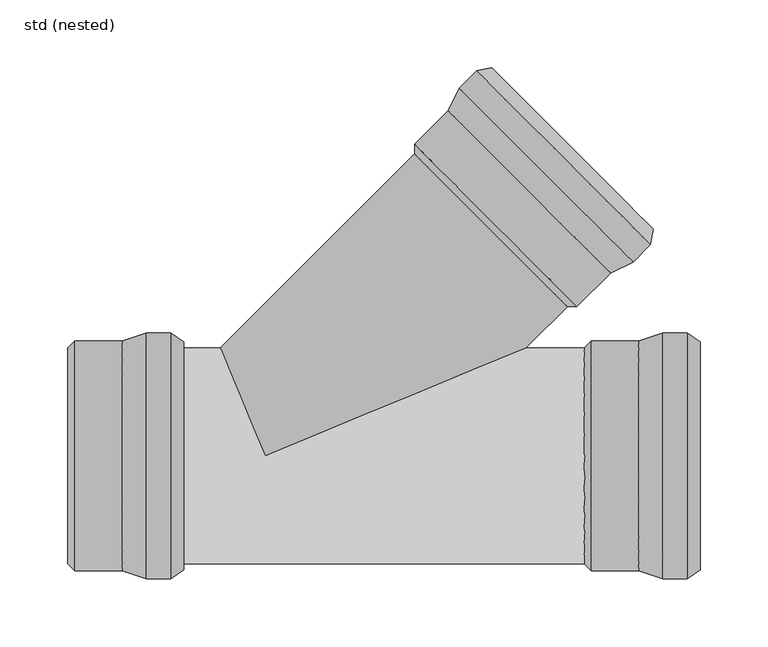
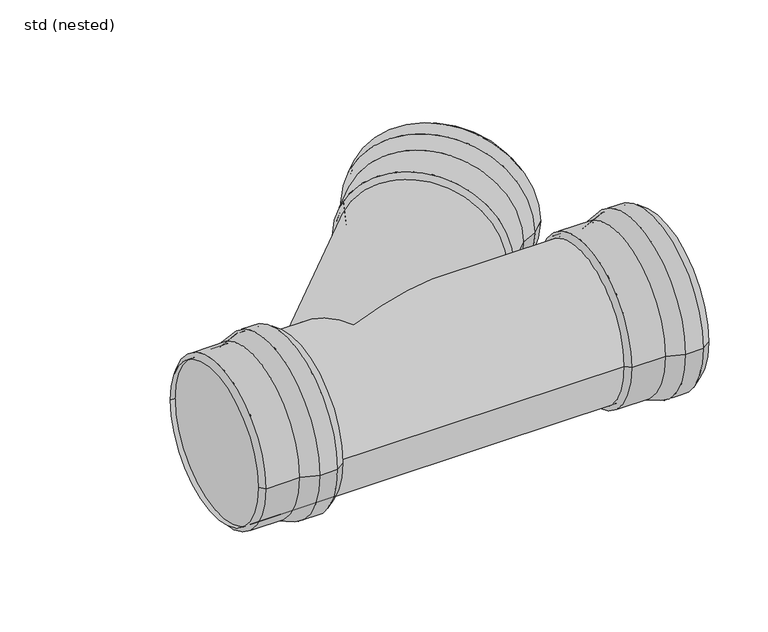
"""IFC4 building model written with IfcOpenShell, lengths in millimetres: pipe fitting geometry, ZZZ_do not use_PIF_ST_UN_GM-X single branch_ACO : std (nested)."""

from ifc_helpers import new_model, si_unit, frame, origin, place, context, project, spatial, polyline, circle_curve, ellipse_curve, source, transform, mapped, element, save
from ifc_brep_helpers import plane_surface, cylinder_surface, revolved_surface, advanced_brep


def std_nested_5b5722a1(model_context):
    return source(origin(), model_context, "Body", "AdvancedBrep", [
        advanced_brep(
        [(-87.5, 90.5, 0.0), (-87.5, -90.5, 0.0), (-69.5, -90.5, 0.0), (-69.5, 90.5, 0.0), (-105.0, 84.5, 0.0), (-105.0, -84.5, 0.0), (-60.0, -84.0, 0.0), (-60.0, 84.0, 0.0), (-140.0, 84.5, 0.0), (-140.0, -84.5, 0.0), (-145.0, 79.5, 0.0), (-145.0, -79.5, 0.0), (-140.0, 79.5, 0.0), (-140.0, -79.5, 0.0), (-104.5833333, 82.0, 0.0), (-104.5833333, -82.0, 0.0), (-140.0, -82.0, 0.0), (-140.0, 82.0, 0.0), (-87.0833333, 88.0, 0.0), (-87.0833333, -88.0, 0.0), (-70.2734094, 88.0, 0.0), (-70.2734094, -88.0, 0.0), (-61.4117098, 81.9367318, 0.0), (-61.4117098, -81.9367318, 0.0)],
        [
            (0, 1, circle_curve(frame((-87.5, 0.0, 0.0), z_axis=(1.0, 0.0, 0.0), x_axis=(0.0, -1.0, 0.0)), 90.5)),
            (1, 2),
            (2, 3, circle_curve(frame((-69.5, 0.0, 0.0), z_axis=(-1.0, 0.0, 0.0), x_axis=(0.0, -1.0, 0.0)), 90.5)),
            (3, 0),
            (1, 0, circle_curve(frame((-87.5, 0.0, 0.0), z_axis=(1.0, 0.0, 0.0), x_axis=(0.0, -1.0, 0.0)), 90.5)),
            (3, 2, circle_curve(frame((-69.5, 0.0, 0.0), z_axis=(-1.0, 0.0, 0.0), x_axis=(0.0, -1.0, 0.0)), 90.5)),
            (4, 5, circle_curve(frame((-105.0, 0.0, 0.0), z_axis=(1.0, 0.0, 0.0), x_axis=(0.0, -1.0, 0.0)), 84.5)),
            (5, 1),
            (0, 4),
            (5, 4, circle_curve(frame((-105.0, 0.0, 0.0), z_axis=(1.0, 0.0, 0.0), x_axis=(0.0, -1.0, 0.0)), 84.5)),
            (2, 6),
            (6, 7, circle_curve(frame((-60.0, 0.0, 0.0), z_axis=(-1.0, 0.0, 0.0), x_axis=(0.0, -1.0, 0.0)), 84.0)),
            (7, 3),
            (7, 6, circle_curve(frame((-60.0, 0.0, 0.0), z_axis=(-1.0, 0.0, 0.0), x_axis=(0.0, -1.0, 0.0)), 84.0)),
            (8, 9, circle_curve(frame((-140.0, 0.0, 0.0), z_axis=(1.0, 0.0, 0.0), x_axis=(0.0, -1.0, 0.0)), 84.5)),
            (9, 5),
            (4, 8),
            (9, 8, circle_curve(frame((-140.0, 0.0, 0.0), z_axis=(1.0, 0.0, 0.0), x_axis=(0.0, -1.0, 0.0)), 84.5)),
            (10, 11, circle_curve(frame((-145.0, 0.0, 0.0), z_axis=(1.0, 0.0, 0.0), x_axis=(0.0, -1.0, 0.0)), 79.5)),
            (11, 9),
            (8, 10),
            (11, 10, circle_curve(frame((-145.0, 0.0, 0.0), z_axis=(1.0, 0.0, 0.0), x_axis=(0.0, -1.0, 0.0)), 79.5)),
            (12, 13, circle_curve(frame((-140.0, 0.0, 0.0), z_axis=(1.0, 0.0, 0.0), x_axis=(0.0, -1.0, 0.0)), 79.5)),
            (13, 11),
            (10, 12),
            (13, 12, circle_curve(frame((-140.0, 0.0, 0.0), z_axis=(1.0, 0.0, 0.0), x_axis=(0.0, -1.0, 0.0)), 79.5)),
            (14, 15, circle_curve(frame((-104.5833333, 0.0, 0.0), z_axis=(1.0, 0.0, 0.0), x_axis=(0.0, -1.0, 0.0)), 82.0)),
            (15, 16),
            (16, 17, circle_curve(frame((-140.0, 0.0, 0.0), z_axis=(-1.0, 0.0, 0.0), x_axis=(0.0, -1.0, 0.0)), 82.0)),
            (17, 14),
            (15, 14, circle_curve(frame((-104.5833333, 0.0, 0.0), z_axis=(1.0, 0.0, 0.0), x_axis=(0.0, -1.0, 0.0)), 82.0)),
            (17, 16, circle_curve(frame((-140.0, 0.0, 0.0), z_axis=(-1.0, 0.0, 0.0), x_axis=(0.0, -1.0, 0.0)), 82.0)),
            (18, 19, circle_curve(frame((-87.0833333, 0.0, 0.0), z_axis=(1.0, 0.0, 0.0), x_axis=(0.0, -1.0, 0.0)), 88.0)),
            (19, 15),
            (14, 18),
            (19, 18, circle_curve(frame((-87.0833333, 0.0, 0.0), z_axis=(1.0, 0.0, 0.0), x_axis=(0.0, -1.0, 0.0)), 88.0)),
            (20, 21, circle_curve(frame((-70.2734094, 0.0, 0.0), z_axis=(1.0, 0.0, 0.0), x_axis=(0.0, -1.0, 0.0)), 88.0)),
            (21, 19),
            (18, 20),
            (21, 20, circle_curve(frame((-70.2734094, 0.0, 0.0), z_axis=(1.0, 0.0, 0.0), x_axis=(0.0, -1.0, 0.0)), 88.0)),
            (22, 23, circle_curve(frame((-61.4117098, 0.0, 0.0), z_axis=(1.0, 0.0, 0.0), x_axis=(0.0, -1.0, 0.0)), 81.9367318)),
            (23, 21),
            (20, 22),
            (23, 22, circle_curve(frame((-61.4117098, 0.0, 0.0), z_axis=(1.0, 0.0, 0.0), x_axis=(0.0, -1.0, 0.0)), 81.9367318)),
            (6, 23),
            (22, 7),
            (16, 13),
            (12, 17),
        ],
        [
            cylinder_surface(frame((-63.3555883, 0.0, 0.0), z_axis=(-1.0, 0.0, 0.0), x_axis=(0.0, -1.0, 0.0)), 90.5),
            revolved_surface(polyline([(-87.5, -90.5, 0.0), (-105.0, -84.5, 0.0)]), (-63.3555883, 0.0, 0.0), (-1.0, 0.0, 0.0)),
            revolved_surface(polyline([(-60.0, -84.0, 0.0), (-69.5, -90.5, 0.0)]), (-63.3555883, 0.0, 0.0), (-1.0, 0.0, 0.0)),
            cylinder_surface(frame((-63.3555883, 0.0, 0.0), z_axis=(-1.0, 0.0, 0.0), x_axis=(0.0, -1.0, 0.0)), 84.5),
            revolved_surface(polyline([(-140.0, -84.5, 0.0), (-145.0, -79.5, 0.0)]), (-63.3555883, 0.0, 0.0), (-1.0, 0.0, 0.0)),
            revolved_surface(polyline([(-145.0, -79.5, 0.0), (-140.0, -79.5, 0.0)]), (-63.3555883, 0.0, 0.0), (-1.0, 0.0, 0.0)),
            revolved_surface(polyline([(-140.0, -82.0, 0.0), (-104.5833333, -82.0, 0.0)]), (-63.3555883, 0.0, 0.0), (-1.0, 0.0, 0.0)),
            revolved_surface(polyline([(-104.5833333, -82.0, 0.0), (-87.0833333, -88.0, 0.0)]), (-63.3555883, 0.0, 0.0), (-1.0, 0.0, 0.0)),
            revolved_surface(polyline([(-87.0833333, -88.0, 0.0), (-70.2734094, -88.0, 0.0)]), (-63.3555883, 0.0, 0.0), (-1.0, 0.0, 0.0)),
            revolved_surface(polyline([(-70.2734094, -88.0, 0.0), (-61.4117098, -81.9367318, 0.0)]), (-63.3555883, 0.0, 0.0), (-1.0, 0.0, 0.0)),
            revolved_surface(polyline([(-61.4117098, -81.9367318, 0.0), (-60.0, -84.0, 0.0)]), (-63.3555883, 0.0, 0.0), (-1.0, 0.0, 0.0)),
            plane_surface(frame((-140.0, 0.0, 0.0), z_axis=(1.0, 0.0, 0.0), x_axis=(0.0, -1.0, 0.0))),
        ],
        [
            (0, [[1, 2, 3, 4]]),
            (0, [[5, -4, 6, -2]]),
            (1, [[7, 8, -1, 9]]),
            (1, [[10, -9, -5, -8]]),
            (2, [[-3, 11, 12, 13]]),
            (2, [[-6, -13, 14, -11]]),
            (3, [[15, 16, -7, 17]]),
            (3, [[18, -17, -10, -16]]),
            (4, [[19, 20, -15, 21]]),
            (4, [[22, -21, -18, -20]]),
            (5, [[23, 24, -19, 25]]),
            (5, [[26, -25, -22, -24]]),
            (6, [[27, 28, 29, 30]]),
            (6, [[31, -30, 32, -28]]),
            (7, [[33, 34, -27, 35]]),
            (7, [[36, -35, -31, -34]]),
            (8, [[37, 38, -33, 39]]),
            (8, [[40, -39, -36, -38]]),
            (9, [[41, 42, -37, 43]]),
            (9, [[44, -43, -40, -42]]),
            (10, [[-12, 45, -41, 46]]),
            (10, [[-14, -46, -44, -45]]),
            (11, [[-29, 47, -23, 48]]),
            (11, [[-32, -48, -26, -47]]),
        ],
    ),
        advanced_brep(
        [(292.5, -90.5, 0.0), (292.5, 90.5, 0.0), (310.5, 90.5, 0.0), (310.5, -90.5, 0.0), (275.0, -84.5, 0.0), (275.0, 84.5, 0.0), (320.0, 84.0, 0.0), (320.0, -84.0, 0.0), (240.0, -84.5, 0.0), (240.0, 84.5, 0.0), (235.0, -79.5, 0.0), (235.0, 79.5, 0.0), (240.0, -79.5, 0.0), (240.0, 79.5, 0.0), (275.4166667, -82.0, 0.0), (275.4166667, 82.0, 0.0), (240.0, 82.0, 0.0), (240.0, -82.0, 0.0), (292.9166667, -88.0, 0.0), (292.9166667, 88.0, 0.0), (309.7265906, -88.0, 0.0), (309.7265906, 88.0, 0.0), (318.5882902, -81.9367318, 0.0), (318.5882902, 81.9367318, 0.0)],
        [
            (0, 1, circle_curve(frame((292.5, 0.0, 0.0), z_axis=(1.0, 0.0, 0.0), x_axis=(0.0, 1.0, 0.0)), 90.5)),
            (1, 2),
            (2, 3, circle_curve(frame((310.5, 0.0, 0.0), z_axis=(-1.0, 0.0, 0.0), x_axis=(0.0, 1.0, 0.0)), 90.5)),
            (3, 0),
            (1, 0, circle_curve(frame((292.5, 0.0, 0.0), z_axis=(1.0, 0.0, 0.0), x_axis=(0.0, 1.0, 0.0)), 90.5)),
            (3, 2, circle_curve(frame((310.5, 0.0, 0.0), z_axis=(-1.0, 0.0, 0.0), x_axis=(0.0, 1.0, 0.0)), 90.5)),
            (4, 5, circle_curve(frame((275.0, 0.0, 0.0), z_axis=(1.0, 0.0, 0.0), x_axis=(0.0, 1.0, 0.0)), 84.5)),
            (5, 1),
            (0, 4),
            (5, 4, circle_curve(frame((275.0, 0.0, 0.0), z_axis=(1.0, 0.0, 0.0), x_axis=(0.0, 1.0, 0.0)), 84.5)),
            (2, 6),
            (6, 7, circle_curve(frame((320.0, 0.0, 0.0), z_axis=(-1.0, 0.0, 0.0), x_axis=(0.0, 1.0, 0.0)), 84.0)),
            (7, 3),
            (7, 6, circle_curve(frame((320.0, 0.0, 0.0), z_axis=(-1.0, 0.0, 0.0), x_axis=(0.0, 1.0, 0.0)), 84.0)),
            (8, 9, circle_curve(frame((240.0, 0.0, 0.0), z_axis=(1.0, 0.0, 0.0), x_axis=(0.0, 1.0, 0.0)), 84.5)),
            (9, 5),
            (4, 8),
            (9, 8, circle_curve(frame((240.0, 0.0, 0.0), z_axis=(1.0, 0.0, 0.0), x_axis=(0.0, 1.0, 0.0)), 84.5)),
            (10, 11, circle_curve(frame((235.0, 0.0, 0.0), z_axis=(1.0, 0.0, 0.0), x_axis=(0.0, 1.0, 0.0)), 79.5)),
            (11, 9),
            (8, 10),
            (11, 10, circle_curve(frame((235.0, 0.0, 0.0), z_axis=(1.0, 0.0, 0.0), x_axis=(0.0, 1.0, 0.0)), 79.5)),
            (12, 13, circle_curve(frame((240.0, 0.0, 0.0), z_axis=(1.0, 0.0, 0.0), x_axis=(0.0, 1.0, 0.0)), 79.5)),
            (13, 11),
            (10, 12),
            (13, 12, circle_curve(frame((240.0, 0.0, 0.0), z_axis=(1.0, 0.0, 0.0), x_axis=(0.0, 1.0, 0.0)), 79.5)),
            (14, 15, circle_curve(frame((275.4166667, 0.0, 0.0), z_axis=(1.0, 0.0, 0.0), x_axis=(0.0, 1.0, 0.0)), 82.0)),
            (15, 16),
            (16, 17, circle_curve(frame((240.0, 0.0, 0.0), z_axis=(-1.0, 0.0, 0.0), x_axis=(0.0, 1.0, 0.0)), 82.0)),
            (17, 14),
            (15, 14, circle_curve(frame((275.4166667, 0.0, 0.0), z_axis=(1.0, 0.0, 0.0), x_axis=(0.0, 1.0, 0.0)), 82.0)),
            (17, 16, circle_curve(frame((240.0, 0.0, 0.0), z_axis=(-1.0, 0.0, 0.0), x_axis=(0.0, 1.0, 0.0)), 82.0)),
            (18, 19, circle_curve(frame((292.9166667, 0.0, 0.0), z_axis=(1.0, 0.0, 0.0), x_axis=(0.0, 1.0, 0.0)), 88.0)),
            (19, 15),
            (14, 18),
            (19, 18, circle_curve(frame((292.9166667, 0.0, 0.0), z_axis=(1.0, 0.0, 0.0), x_axis=(0.0, 1.0, 0.0)), 88.0)),
            (20, 21, circle_curve(frame((309.7265906, 0.0, 0.0), z_axis=(1.0, 0.0, 0.0), x_axis=(0.0, 1.0, 0.0)), 88.0)),
            (21, 19),
            (18, 20),
            (21, 20, circle_curve(frame((309.7265906, 0.0, 0.0), z_axis=(1.0, 0.0, 0.0), x_axis=(0.0, 1.0, 0.0)), 88.0)),
            (22, 23, circle_curve(frame((318.5882902, 0.0, 0.0), z_axis=(1.0, 0.0, 0.0), x_axis=(0.0, 1.0, 0.0)), 81.9367318)),
            (23, 21),
            (20, 22),
            (23, 22, circle_curve(frame((318.5882902, 0.0, 0.0), z_axis=(1.0, 0.0, 0.0), x_axis=(0.0, 1.0, 0.0)), 81.9367318)),
            (6, 23),
            (22, 7),
            (16, 13),
            (12, 17),
        ],
        [
            cylinder_surface(frame((316.6444117, 0.0, 0.0), z_axis=(-1.0, 0.0, 0.0), x_axis=(0.0, 1.0, 0.0)), 90.5),
            revolved_surface(polyline([(292.5, 90.5, 0.0), (275.0, 84.5, 0.0)]), (316.6444117, 0.0, 0.0), (-1.0, 0.0, 0.0)),
            revolved_surface(polyline([(320.0, 84.0, 0.0), (310.5, 90.5, 0.0)]), (316.6444117, 0.0, 0.0), (-1.0, 0.0, 0.0)),
            cylinder_surface(frame((316.6444117, 0.0, 0.0), z_axis=(-1.0, 0.0, 0.0), x_axis=(0.0, 1.0, 0.0)), 84.5),
            revolved_surface(polyline([(240.0, 84.5, 0.0), (235.0, 79.5, 0.0)]), (316.6444117, 0.0, 0.0), (-1.0, 0.0, 0.0)),
            revolved_surface(polyline([(235.0, 79.5, 0.0), (240.0, 79.5, 0.0)]), (316.6444117, 0.0, 0.0), (-1.0, 0.0, 0.0)),
            revolved_surface(polyline([(240.0, 82.0, 0.0), (275.4166667, 82.0, 0.0)]), (316.6444117, 0.0, 0.0), (-1.0, 0.0, 0.0)),
            revolved_surface(polyline([(275.4166667, 82.0, 0.0), (292.9166667, 88.0, 0.0)]), (316.6444117, 0.0, 0.0), (-1.0, 0.0, 0.0)),
            revolved_surface(polyline([(292.9166667, 88.0, 0.0), (309.7265906, 88.0, 0.0)]), (316.6444117, 0.0, 0.0), (-1.0, 0.0, 0.0)),
            revolved_surface(polyline([(309.7265906, 88.0, 0.0), (318.5882902, 81.9367318, 0.0)]), (316.6444117, 0.0, 0.0), (-1.0, 0.0, 0.0)),
            revolved_surface(polyline([(318.5882902, 81.9367318, 0.0), (320.0, 84.0, 0.0)]), (316.6444117, 0.0, 0.0), (-1.0, 0.0, 0.0)),
            plane_surface(frame((240.0, 0.0, 0.0), z_axis=(1.0, 0.0, 0.0), x_axis=(0.0, 1.0, 0.0))),
        ],
        [
            (0, [[1, 2, 3, 4]]),
            (0, [[5, -4, 6, -2]]),
            (1, [[7, 8, -1, 9]]),
            (1, [[10, -9, -5, -8]]),
            (2, [[-3, 11, 12, 13]]),
            (2, [[-6, -13, 14, -11]]),
            (3, [[15, 16, -7, 17]]),
            (3, [[18, -17, -10, -16]]),
            (4, [[19, 20, -15, 21]]),
            (4, [[22, -21, -18, -20]]),
            (5, [[23, 24, -19, 25]]),
            (5, [[26, -25, -22, -24]]),
            (6, [[27, 28, 29, 30]]),
            (6, [[31, -30, 32, -28]]),
            (7, [[33, 34, -27, 35]]),
            (7, [[36, -35, -31, -34]]),
            (8, [[37, 38, -33, 39]]),
            (8, [[40, -39, -36, -38]]),
            (9, [[41, 42, -37, 43]]),
            (9, [[44, -43, -40, -42]]),
            (10, [[-12, 45, -41, 46]]),
            (10, [[-14, -46, -44, -45]]),
            (11, [[-29, 47, -23, 48]]),
            (11, [[-32, -48, -26, -47]]),
        ],
    ),
        advanced_brep(
        [(270.8218972, 142.8355698, 0.0), (142.8355698, 270.8218972, 0.0), (155.5634919, 283.5498193, 0.0), (283.5498193, 155.5634919, 0.0), (254.2048878, 134.7038418, 0.0), (134.7038418, 254.2048878, 0.0), (166.8772004, 285.6711396, 0.0), (285.6711396, 166.8772004, 0.0), (229.4561505, 109.9551045, 0.0), (109.9551045, 229.4561505, 0.0), (222.3850827, 109.9551045, 0.0), (109.9551045, 222.3850827, 0.0), (225.9206166, 113.4906384, 0.0), (113.4906384, 225.9206166, 0.0), (252.7317487, 136.7662366, 0.0), (136.7662366, 252.7317487, 0.0), (111.7228714, 227.6883835, 0.0), (227.6883835, 111.7228714, 0.0), (269.3487581, 144.8979646, 0.0), (144.8979646, 269.3487581, 0.0), (281.2351693, 156.7843758, 0.0), (156.7843758, 281.2351693, 0.0), (283.2139591, 167.3379217, 0.0), (167.3379217, 283.2139591, 0.0)],
        [
            (0, 1, circle_curve(frame((206.8287335, 206.8287335, 0.0), z_axis=(0.7071067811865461, 0.7071067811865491, 0.0), x_axis=(-0.7071067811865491, 0.7071067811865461, 0.0)), 90.5)),
            (1, 2),
            (2, 3, circle_curve(frame((219.5566556, 219.5566556, 0.0), z_axis=(-0.7071067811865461, -0.7071067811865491, 0.0), x_axis=(-0.7071067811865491, 0.7071067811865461, 0.0)), 90.5)),
            (3, 0),
            (1, 0, circle_curve(frame((206.8287335, 206.8287335, 0.0), z_axis=(0.7071067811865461, 0.7071067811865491, 0.0), x_axis=(-0.7071067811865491, 0.7071067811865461, 0.0)), 90.5)),
            (3, 2, circle_curve(frame((219.5566556, 219.5566556, 0.0), z_axis=(-0.7071067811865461, -0.7071067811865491, 0.0), x_axis=(-0.7071067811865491, 0.7071067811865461, 0.0)), 90.5)),
            (4, 5, circle_curve(frame((194.4543648, 194.4543648, 0.0), z_axis=(0.7071067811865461, 0.7071067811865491, 0.0), x_axis=(-0.7071067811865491, 0.7071067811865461, 0.0)), 84.5)),
            (5, 1),
            (0, 4),
            (5, 4, circle_curve(frame((194.4543648, 194.4543648, 0.0), z_axis=(0.7071067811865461, 0.7071067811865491, 0.0), x_axis=(-0.7071067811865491, 0.7071067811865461, 0.0)), 84.5)),
            (2, 6),
            (6, 7, circle_curve(frame((226.27417, 226.27417, 0.0), z_axis=(-0.7071067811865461, -0.7071067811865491, 0.0), x_axis=(-0.7071067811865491, 0.7071067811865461, 0.0)), 84.0)),
            (7, 3),
            (7, 6, circle_curve(frame((226.27417, 226.27417, 0.0), z_axis=(-0.7071067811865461, -0.7071067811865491, 0.0), x_axis=(-0.7071067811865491, 0.7071067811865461, 0.0)), 84.0)),
            (8, 9, circle_curve(frame((169.7056275, 169.7056275, 0.0), z_axis=(0.7071067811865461, 0.7071067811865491, 0.0), x_axis=(-0.7071067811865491, 0.7071067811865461, 0.0)), 84.5)),
            (9, 5),
            (4, 8),
            (9, 8, circle_curve(frame((169.7056275, 169.7056275, 0.0), z_axis=(0.7071067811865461, 0.7071067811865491, 0.0), x_axis=(-0.7071067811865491, 0.7071067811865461, 0.0)), 84.5)),
            (10, 11, circle_curve(frame((166.1700936, 166.1700936, 0.0), z_axis=(0.7071067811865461, 0.7071067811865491, 0.0), x_axis=(-0.7071067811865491, 0.7071067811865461, 0.0)), 79.5)),
            (11, 9),
            (8, 10),
            (11, 10, circle_curve(frame((166.1700936, 166.1700936, 0.0), z_axis=(0.7071067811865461, 0.7071067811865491, 0.0), x_axis=(-0.7071067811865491, 0.7071067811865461, 0.0)), 79.5)),
            (12, 13, circle_curve(frame((169.7056275, 169.7056275, 0.0), z_axis=(0.7071067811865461, 0.7071067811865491, 0.0), x_axis=(-0.7071067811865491, 0.7071067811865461, 0.0)), 79.5)),
            (13, 11),
            (10, 12),
            (13, 12, circle_curve(frame((169.7056275, 169.7056275, 0.0), z_axis=(0.7071067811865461, 0.7071067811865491, 0.0), x_axis=(-0.7071067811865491, 0.7071067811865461, 0.0)), 79.5)),
            (14, 15, circle_curve(frame((194.7489927, 194.7489927, 0.0), z_axis=(0.7071067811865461, 0.7071067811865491, 0.0), x_axis=(-0.7071067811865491, 0.7071067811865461, 0.0)), 82.0)),
            (15, 16),
            (16, 17, circle_curve(frame((169.7056275, 169.7056275, 0.0), z_axis=(-0.7071067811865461, -0.7071067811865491, 0.0), x_axis=(-0.7071067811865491, 0.7071067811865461, 0.0)), 82.0)),
            (17, 14),
            (15, 14, circle_curve(frame((194.7489927, 194.7489927, 0.0), z_axis=(0.7071067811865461, 0.7071067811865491, 0.0), x_axis=(-0.7071067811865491, 0.7071067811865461, 0.0)), 82.0)),
            (17, 16, circle_curve(frame((169.7056275, 169.7056275, 0.0), z_axis=(-0.7071067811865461, -0.7071067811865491, 0.0), x_axis=(-0.7071067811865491, 0.7071067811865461, 0.0)), 82.0)),
            (18, 19, circle_curve(frame((207.1233613, 207.1233613, 0.0), z_axis=(0.7071067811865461, 0.7071067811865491, 0.0), x_axis=(-0.7071067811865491, 0.7071067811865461, 0.0)), 88.0)),
            (19, 15),
            (14, 18),
            (19, 18, circle_curve(frame((207.1233613, 207.1233613, 0.0), z_axis=(0.7071067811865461, 0.7071067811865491, 0.0), x_axis=(-0.7071067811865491, 0.7071067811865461, 0.0)), 88.0)),
            (20, 21, circle_curve(frame((219.0097725, 219.0097725, 0.0), z_axis=(0.7071067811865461, 0.7071067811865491, 0.0), x_axis=(-0.7071067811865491, 0.7071067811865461, 0.0)), 88.0)),
            (21, 19),
            (18, 20),
            (21, 20, circle_curve(frame((219.0097725, 219.0097725, 0.0), z_axis=(0.7071067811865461, 0.7071067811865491, 0.0), x_axis=(-0.7071067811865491, 0.7071067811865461, 0.0)), 88.0)),
            (22, 23, circle_curve(frame((225.2759404, 225.2759404, 0.0), z_axis=(0.7071067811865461, 0.7071067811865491, 0.0), x_axis=(-0.7071067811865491, 0.7071067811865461, 0.0)), 81.9367318)),
            (23, 21),
            (20, 22),
            (23, 22, circle_curve(frame((225.2759404, 225.2759404, 0.0), z_axis=(0.7071067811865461, 0.7071067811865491, 0.0), x_axis=(-0.7071067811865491, 0.7071067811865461, 0.0)), 81.9367318)),
            (6, 23),
            (22, 7),
            (16, 13),
            (12, 17),
        ],
        [
            cylinder_surface(frame((223.9014107, 223.9014107, 0.0), z_axis=(-0.7071067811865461, -0.7071067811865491, 0.0), x_axis=(-0.7071067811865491, 0.7071067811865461, 0.0)), 90.5),
            revolved_surface(polyline([(142.8355698, 270.8218972, 0.0), (134.7038418, 254.2048878, 0.0)]), (223.9014107, 223.9014107, 0.0), (-0.7071067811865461, -0.7071067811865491, 0.0)),
            revolved_surface(polyline([(166.8772004, 285.6711396, 0.0), (155.5634919, 283.5498193, 0.0)]), (223.9014107, 223.9014107, 0.0), (-0.7071067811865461, -0.7071067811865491, 0.0)),
            cylinder_surface(frame((223.9014107, 223.9014107, 0.0), z_axis=(-0.7071067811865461, -0.7071067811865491, 0.0), x_axis=(-0.7071067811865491, 0.7071067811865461, 0.0)), 84.5),
            revolved_surface(polyline([(109.9551045, 229.4561505, 0.0), (109.9551045, 222.3850827, 0.0)]), (223.9014107, 223.9014107, 0.0), (-0.7071067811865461, -0.7071067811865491, 0.0)),
            revolved_surface(polyline([(109.9551044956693, 222.3850827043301, 0.0), (113.49063839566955, 225.92061660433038, 0.0)]), (223.9014107, 223.9014107, 0.0), (-0.7071067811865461, -0.7071067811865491, 0.0)),
            revolved_surface(polyline([(111.72287139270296, 227.68838350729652, 0.0), (136.76623664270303, 252.7317487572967, 0.0)]), (223.9014107, 223.9014107, 0.0), (-0.7071067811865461, -0.7071067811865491, 0.0)),
            revolved_surface(polyline([(136.7662366, 252.7317487, 0.0), (144.8979646, 269.3487581, 0.0)]), (223.9014107, 223.9014107, 0.0), (-0.7071067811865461, -0.7071067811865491, 0.0)),
            revolved_surface(polyline([(144.8979645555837, 269.348758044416, 0.0), (156.78437580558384, 281.23516929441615, 0.0)]), (223.9014107, 223.9014107, 0.0), (-0.7071067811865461, -0.7071067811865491, 0.0)),
            revolved_surface(polyline([(156.7843758, 281.2351693, 0.0), (167.3379217, 283.2139591, 0.0)]), (223.9014107, 223.9014107, 0.0), (-0.7071067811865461, -0.7071067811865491, 0.0)),
            revolved_surface(polyline([(167.3379217, 283.2139591, 0.0), (166.8772004, 285.6711396, 0.0)]), (223.9014107, 223.9014107, 0.0), (-0.7071067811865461, -0.7071067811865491, 0.0)),
            plane_surface(frame((169.7056275, 169.7056275, 0.0), z_axis=(0.7071067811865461, 0.7071067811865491, 0.0), x_axis=(-0.7071067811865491, 0.7071067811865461, 0.0))),
        ],
        [
            (0, [[1, 2, 3, 4]]),
            (0, [[5, -4, 6, -2]]),
            (1, [[7, 8, -1, 9]]),
            (1, [[10, -9, -5, -8]]),
            (2, [[-3, 11, 12, 13]]),
            (2, [[-6, -13, 14, -11]]),
            (3, [[15, 16, -7, 17]]),
            (3, [[18, -17, -10, -16]]),
            (4, [[19, 20, -15, 21]]),
            (4, [[22, -21, -18, -20]]),
            (5, [[23, 24, -19, 25]]),
            (5, [[26, -25, -22, -24]]),
            (6, [[27, 28, 29, 30]]),
            (6, [[31, -30, 32, -28]]),
            (7, [[33, 34, -27, 35]]),
            (7, [[36, -35, -31, -34]]),
            (8, [[37, 38, -33, 39]]),
            (8, [[40, -39, -36, -38]]),
            (9, [[41, 42, -37, 43]]),
            (9, [[44, -43, -40, -42]]),
            (10, [[-12, 45, -41, 46]]),
            (10, [[-14, -46, -44, -45]]),
            (11, [[-29, 47, -23, 48]]),
            (11, [[-32, -48, -26, -47]]),
        ],
    ),
        advanced_brep(
        [(240.0, -79.5, 0.0), (240.0, 79.5, 0.0), (-140.0, -79.5, 0.0), (-140.0, 79.5, 0.0), (-32.9299782, 79.5, 0.0), (0.0, 0.0, -79.5), (191.9299782, 79.5, 0.0), (0.0, 0.0, 79.5), (225.9206166, 113.4906384, 0.0), (113.4906384, 225.9206166, 0.0)],
        [
            (0, 1, circle_curve(frame((240.0, 0.0, 0.0), z_axis=(1.0, 0.0, 0.0), x_axis=(0.0, 1.0, 0.0)), 79.5)),
            (1, 0, circle_curve(frame((240.0, 0.0, 0.0), z_axis=(1.0, 0.0, 0.0), x_axis=(0.0, 1.0, 0.0)), 79.5)),
            (2, 3, circle_curve(frame((-140.0, 0.0, 0.0), z_axis=(-1.0, 0.0, 0.0), x_axis=(0.0, 1.0, 0.0)), 79.5)),
            (3, 2, circle_curve(frame((-140.0, 0.0, 0.0), z_axis=(-1.0, 0.0, 0.0), x_axis=(0.0, 1.0, 0.0)), 79.5)),
            (0, 2),
            (3, 4),
            (4, 5, ellipse_curve(frame((0.0, 0.0, 0.0), z_axis=(-0.9238795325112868, -0.38268343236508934, 0.0), x_axis=(0.38268343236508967, -0.9238795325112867, 0.0)), 86.0501799, 79.5)),
            (5, 6, ellipse_curve(frame((0.0, 0.0, 0.0), z_axis=(0.3826834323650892, -0.9238795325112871, 0.0), x_axis=(0.9238795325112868, 0.3826834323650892, 0.0)), 207.7435114, 79.5)),
            (6, 1),
            (6, 7, ellipse_curve(frame((0.0, 0.0, 0.0), z_axis=(0.3826834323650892, -0.9238795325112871, 0.0), x_axis=(0.9238795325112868, 0.3826834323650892, 0.0)), 207.7435114, 79.5)),
            (7, 4, ellipse_curve(frame((0.0, 0.0, 0.0), z_axis=(-0.9238795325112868, -0.38268343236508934, 0.0), x_axis=(0.38268343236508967, -0.9238795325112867, 0.0)), 86.0501799, 79.5)),
            (8, 9, circle_curve(frame((169.7056275, 169.7056275, 0.0), z_axis=(0.7071067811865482, 0.707106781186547, 0.0), x_axis=(-0.707106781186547, 0.7071067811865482, 0.0)), 79.5)),
            (9, 8, circle_curve(frame((169.7056275, 169.7056275, 0.0), z_axis=(0.7071067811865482, 0.707106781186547, 0.0), x_axis=(-0.707106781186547, 0.7071067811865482, 0.0)), 79.5)),
            (9, 4),
            (6, 8),
        ],
        [
            plane_surface(frame((240.0, 79.5, 0.0), z_axis=(1.0, 0.0, 0.0), x_axis=(0.0, 0.0, 1.0))),
            plane_surface(frame((-140.0, 79.5, 0.0), z_axis=(-1.0, 0.0, 0.0), x_axis=(0.0, 0.0, -1.0))),
            cylinder_surface(frame((-140.0, 0.0, 0.0), z_axis=(1.0, 0.0, 0.0), x_axis=(0.0, 1.0, 0.0)), 79.5),
            plane_surface(frame((169.7056275, 169.7056275, 0.0), z_axis=(0.7071067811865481, 0.7071067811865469, 0.0), x_axis=(0.0, 0.0, 1.0))),
            cylinder_surface(frame((0.0, 0.0, 0.0), z_axis=(-0.7071067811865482, -0.707106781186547, 0.0), x_axis=(-0.707106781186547, 0.7071067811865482, 0.0)), 79.5),
        ],
        [
            (0, [[1, 2]]),
            (1, [[3, 4]]),
            (2, [[-1, 5, -4, 6, 7, 8, 9]]),
            (2, [[-2, -9, 10, 11, -6, -3, -5]]),
            (3, [[12, 13]]),
            (4, [[-13, 14, -11, -10, 15]]),
            (4, [[-12, -15, -8, -7, -14]]),
        ],
    ),
    ])


if __name__ == "__main__":
    model = new_model("IFC4")
    model_context = context("Model", 3, world=origin())
    ifc_project = project(units=[si_unit("LENGTHUNIT", "METRE", prefix="MILLI")], contexts=[model_context])
    site = spatial("IfcSite", under=ifc_project)
    building = spatial("IfcBuilding", under=site)
    placement = place(None, origin())
    std_nested_shape = std_nested_5b5722a1(model_context)
    element("IfcPipeFitting", 1, ObjectType="ZZZ_do not use_PIF_ST_UN_GM-X single branch_ACO : std (nested)", at=placement, inside=building, context=model_context, shape_type="MappedRepresentation", body=[
        mapped(std_nested_shape, transform((0.0, 0.0, 0.0), x_axis=(1.0, 0.0, 0.0), y_axis=(0.0, 1.0, 0.0), z_axis=(0.0, 0.0, 1.0))),
    ])
    save(model, "model.ifc")
